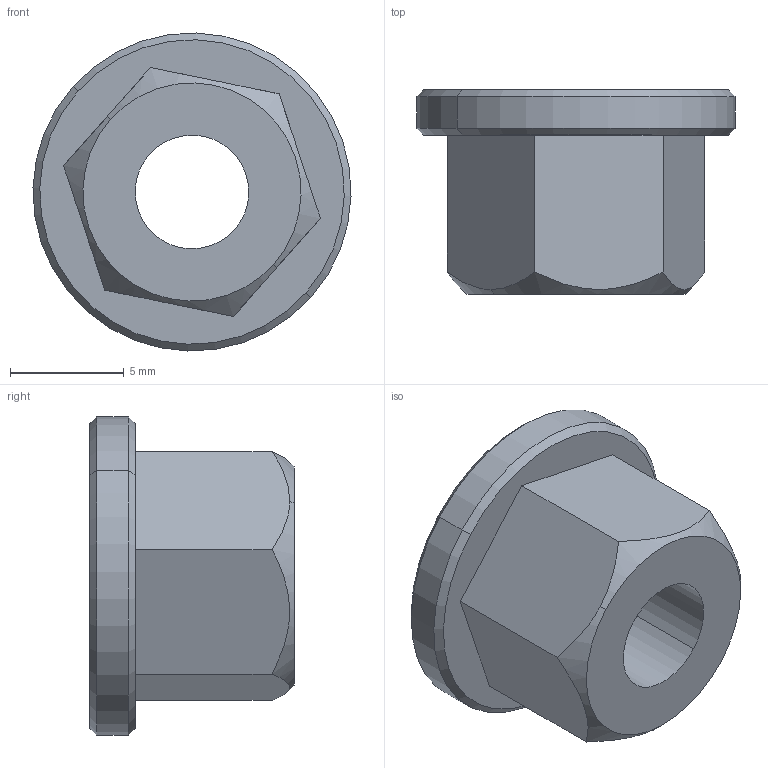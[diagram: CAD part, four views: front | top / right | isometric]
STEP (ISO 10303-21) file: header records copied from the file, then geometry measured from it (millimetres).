
FILE_DESCRIPTION (( 'STEP AP214' ), '1' );
FILE_NAME ('YIS40D-GF-06 Ãàéêà ôëàíöåâàÿ Ì6.STEP', '2025-08-19T13:01:03', ( '' ), ( '' ), 'SwSTEP 2.0', 'SolidWorks 2023', '' );
FILE_SCHEMA (( 'AUTOMOTIVE_DESIGN' ));
Length unit declared in the file: millimetre
Products named in the file (1): YIS40D-GF-06 Гайка фланцевая М6
Bounding box: 13.99 x 9 x 13.99 mm (x, y, z)
Volume: 729.4 mm3; surface area: 714.5 mm2
Topology: 1 solids, 1 shells, 19 faces, 44 edges, 28 vertices
Faces by surface type: plane 9, cone 6, cylinder 4
Entity records: 823 total; most frequent: CARTESIAN_POINT 364, DIRECTION 90, ORIENTED_EDGE 88, EDGE_CURVE 44, AXIS2_PLACEMENT_3D 34, VERTEX_POINT 28, EDGE_LOOP 22, LINE 22
